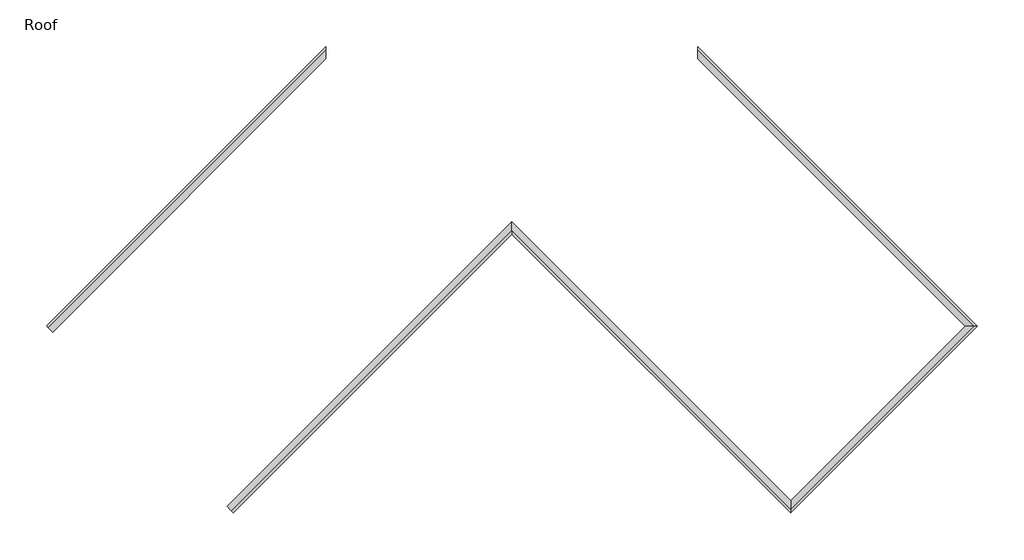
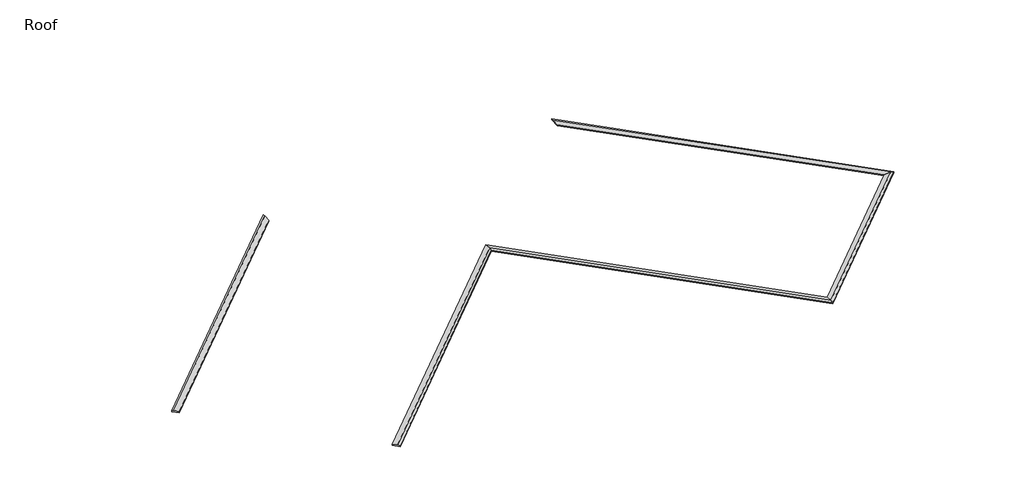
# One storey, incomplete: 5 proxies.
"""IFC4 building model written with IfcOpenShell, lengths in millimetres."""

from ifc_helpers import new_model, si_unit, origin, place, context, project, spatial, faceted_brep, element, save

model = new_model("IFC4")

# Units and contexts
model_context = context("Model", 3, world=origin())
ifc_project = project(units=[si_unit("LENGTHUNIT", "METRE", prefix="MILLI")], contexts=[model_context])

# Site, building, storey
site = spatial("IfcSite", under=ifc_project)
building = spatial("IfcBuilding", under=site)
storey = spatial("IfcBuildingStorey", under=building, Name="Roof", Elevation=4572.0)

# Proxies
placement = place(None, origin())
element("IfcBuildingElementProxy", 1, Name="Wall Sweeps", at=placement, inside=storey, context=model_context, shape_type="Brep", body=[
    faceted_brep([(5753.0175119, 11034.763937, 4635.5), (5753.0175119, 11429.8952063, 4673.6), (5753.0175119, 11609.5003287, 4635.5), (5753.0175119, 11609.5003287, 4572.0), (5753.0175119, 11034.763937, 4572.0), (18145.770959, -1357.9895101, 4635.5), (18145.770959, -1357.9895101, 4572.0), (18720.5073507, -1357.9895101, 4572.0), (18720.5073507, -1357.9895101, 4635.5), (18540.9022283, -1357.9895101, 4673.6)], [[[0, 1, 2, 3, 4]], [[5, 6, 7, 8, 9]], [[1, 0, 5, 9]], [[2, 1, 9, 8]], [[3, 2, 8, 7]], [[4, 3, 7, 6]], [[0, 4, 6, 5]]]),
])
element("IfcBuildingElementProxy", 2, Name="Wall Sweeps", at=placement, inside=storey, context=model_context, shape_type="Brep", body=[
    faceted_brep([(18145.770959, -1357.9895101, 4635.5), (18540.9022283, -1357.9895101, 4673.6), (18720.5073507, -1357.9895101, 4635.5), (18720.5073507, -1357.9895101, 4572.0), (18145.770959, -1357.9895101, 4572.0), (10063.54045, -9440.2200191, 4635.5), (10063.54045, -9440.2200191, 4572.0), (10063.54045, -10014.9564108, 4572.0), (10063.54045, -10014.9564108, 4635.5), (10063.54045, -9835.3512884, 4673.6)], [[[0, 1, 2, 3, 4]], [[5, 6, 7, 8, 9]], [[1, 0, 5, 9]], [[2, 1, 9, 8]], [[3, 2, 8, 7]], [[4, 3, 7, 6]], [[0, 4, 6, 5]]]),
])
element("IfcBuildingElementProxy", 3, Name="Wall Sweeps", at=placement, inside=storey, context=model_context, shape_type="Brep", body=[
    faceted_brep([(10063.54045, -9440.2200191, 4635.5), (10063.54045, -9835.3512884, 4673.6), (10063.54045, -10014.9564108, 4635.5), (10063.54045, -10014.9564108, 4572.0), (10063.54045, -9440.2200191, 4572.0), (-2868.0283643, 3491.3487953, 4635.5), (-2868.0283643, 3491.3487953, 4572.0), (-2868.0283643, 2916.6124035, 4572.0), (-2868.0283643, 2916.6124035, 4635.5), (-2868.0283643, 3096.217526, 4673.6)], [[[0, 1, 2, 3, 4]], [[5, 6, 7, 8, 9]], [[1, 0, 5, 9]], [[2, 1, 9, 8]], [[3, 2, 8, 7]], [[4, 3, 7, 6]], [[0, 4, 6, 5]]]),
])
element("IfcBuildingElementProxy", 4, Name="Wall Sweeps", at=placement, inside=storey, context=model_context, shape_type="Brep", body=[
    faceted_brep([(-2868.0283643, 3491.3487953, 4635.5), (-2868.0283643, 3096.217526, 4673.6), (-2868.0283643, 2916.6124035, 4635.5), (-2868.0283643, 2916.6124035, 4572.0), (-2868.0283643, 3491.3487953, 4572.0), (-16069.0048623, -9709.6277027, 4635.5), (-16069.0048623, -9709.6277027, 4572.0), (-15781.6366664, -9996.9958986, 4572.0), (-15781.6366664, -9996.9958986, 4635.5), (-15871.4392276, -9907.1933374, 4673.6)], [[[0, 1, 2, 3, 4]], [[5, 6, 7, 8, 9]], [[1, 0, 5, 9]], [[2, 1, 9, 8]], [[3, 2, 8, 7]], [[4, 3, 7, 6]], [[0, 4, 6, 5]]]),
])
element("IfcBuildingElementProxy", 5, Name="Wall Sweeps", at=placement, inside=storey, context=model_context, shape_type="Brep", body=[
    faceted_brep([(-24151.2353712, -1627.3971937, 4635.5), (-24348.8010059, -1429.8315591, 4673.6), (-24438.6035671, -1340.0289979, 4635.5), (-24438.6035671, -1340.0289979, 4572.0), (-24151.2353712, -1627.3971937, 4572.0), (-11489.0742405, 11034.763937, 4635.5), (-11489.0742405, 11034.763937, 4572.0), (-11489.0742405, 11609.5003287, 4572.0), (-11489.0742405, 11609.5003287, 4635.5), (-11489.0742405, 11429.8952063, 4673.6)], [[[0, 1, 2, 3, 4]], [[5, 6, 7, 8, 9]], [[1, 0, 5, 9]], [[2, 1, 9, 8]], [[3, 2, 8, 7]], [[4, 3, 7, 6]], [[0, 4, 6, 5]]]),
])

save(model, "model.ifc")
